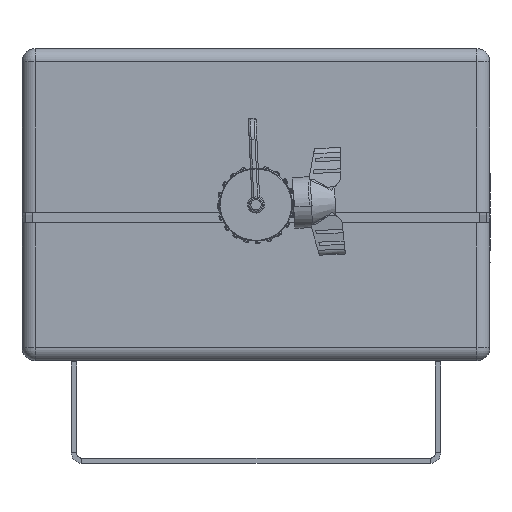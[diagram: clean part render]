
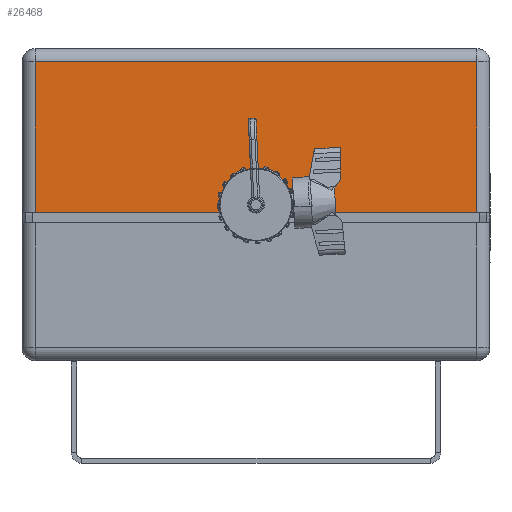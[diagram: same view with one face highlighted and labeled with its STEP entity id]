
A CAD part, front view. The second image highlights one B-rep face of the part: STEP entity #26468.
In plain terms, the highlighted planar face has unit normal (0, -1, 0) as drawn and (0, 1, 0) by its records, which use the part's own axes.
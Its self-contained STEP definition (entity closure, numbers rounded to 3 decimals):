
#25307=CARTESIAN_POINT('',(-85.,465.0,-63.));
#25308=VERTEX_POINT('',#25307);
#25316=CARTESIAN_POINT('',(-13.5,465.0,-63.));
#25317=VERTEX_POINT('',#25316);
#25318=CARTESIAN_POINT('',(-13.5,465.0,-63.));
#25319=DIRECTION('',(-1.0,0.0,0.0));
#25320=VECTOR('',#25319,71.5);
#25321=LINE('',#25318,#25320);
#25322=EDGE_CURVE('',#25317,#25308,#25321,.T.);
#25547=CARTESIAN_POINT('',(-13.5,465.0,-60.0));
#25548=VERTEX_POINT('',#25547);
#25555=CARTESIAN_POINT('',(13.5,465.0,-60.0));
#25556=VERTEX_POINT('',#25555);
#25557=CARTESIAN_POINT('',(0.0,465.0,-60.0));
#25558=DIRECTION('',(0.0,-1.0,0.0));
#25559=DIRECTION('',(-1.0,0.0,0.0));
#25560=AXIS2_PLACEMENT_3D('',#25557,#25558,#25559);
#25561=CIRCLE('',#25560,13.5);
#25562=EDGE_CURVE('',#25556,#25548,#25561,.T.);
#26348=CARTESIAN_POINT('',(13.5,465.0,-63.));
#26349=VERTEX_POINT('',#26348);
#26350=CARTESIAN_POINT('',(13.5,465.0,-63.));
#26351=DIRECTION('',(0.0,0.0,1.0));
#26352=VECTOR('',#26351,3.);
#26353=LINE('',#26350,#26352);
#26354=EDGE_CURVE('',#26349,#25556,#26353,.T.);
#26377=CARTESIAN_POINT('',(-13.5,465.0,-60.0));
#26378=DIRECTION('',(0.0,0.0,-1.0));
#26379=VECTOR('',#26378,3.);
#26380=LINE('',#26377,#26379);
#26381=EDGE_CURVE('',#25548,#25317,#26380,.T.);
#26427=CARTESIAN_POINT('',(90.,465.0,0.0));
#26428=DIRECTION('',(0.0,1.0,0.0));
#26429=DIRECTION('',(0.0,0.0,1.0));
#26430=AXIS2_PLACEMENT_3D('',#26427,#26428,#26429);
#26431=PLANE('',#26430);
#26432=ORIENTED_EDGE('',*,*,#26354,.T.);
#26433=ORIENTED_EDGE('',*,*,#25562,.T.);
#26434=ORIENTED_EDGE('',*,*,#26381,.T.);
#26435=ORIENTED_EDGE('',*,*,#25322,.T.);
#26436=CARTESIAN_POINT('',(-85.,465.0,-5.0));
#26437=VERTEX_POINT('',#26436);
#26438=CARTESIAN_POINT('',(-85.,465.0,-5.0));
#26439=DIRECTION('',(0.0,0.0,-1.0));
#26440=VECTOR('',#26439,58.);
#26441=LINE('',#26438,#26440);
#26442=EDGE_CURVE('',#26437,#25308,#26441,.T.);
#26443=ORIENTED_EDGE('',*,*,#26442,.F.);
#26444=CARTESIAN_POINT('',(85.,465.0,-5.0));
#26445=VERTEX_POINT('',#26444);
#26446=CARTESIAN_POINT('',(85.,465.0,-5.0));
#26447=DIRECTION('',(-1.0,0.0,0.0));
#26448=VECTOR('',#26447,170.0);
#26449=LINE('',#26446,#26448);
#26450=EDGE_CURVE('',#26445,#26437,#26449,.T.);
#26451=ORIENTED_EDGE('',*,*,#26450,.F.);
#26452=CARTESIAN_POINT('',(85.,465.0,-63.));
#26453=VERTEX_POINT('',#26452);
#26454=CARTESIAN_POINT('',(85.,465.0,-63.));
#26455=DIRECTION('',(0.0,0.0,1.0));
#26456=VECTOR('',#26455,58.);
#26457=LINE('',#26454,#26456);
#26458=EDGE_CURVE('',#26453,#26445,#26457,.T.);
#26459=ORIENTED_EDGE('',*,*,#26458,.F.);
#26460=CARTESIAN_POINT('',(85.,465.0,-63.));
#26461=DIRECTION('',(-1.0,0.0,0.0));
#26462=VECTOR('',#26461,71.5);
#26463=LINE('',#26460,#26462);
#26464=EDGE_CURVE('',#26453,#26349,#26463,.T.);
#26465=ORIENTED_EDGE('',*,*,#26464,.T.);
#26466=EDGE_LOOP('',(#26432,#26433,#26434,#26435,#26443,#26451,#26459,#26465));
#26467=FACE_OUTER_BOUND('',#26466,.T.);
#26468=ADVANCED_FACE('',(#26467),#26431,.T.);
